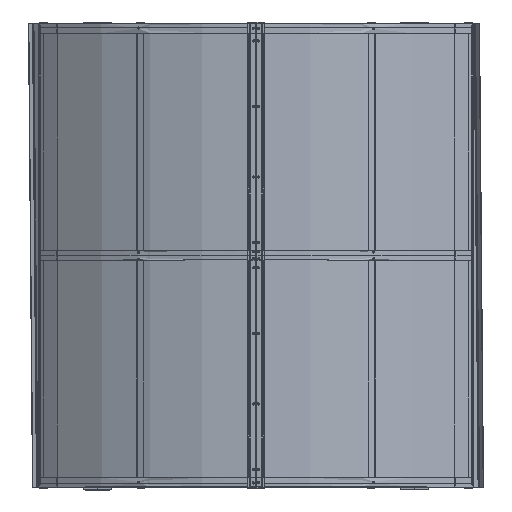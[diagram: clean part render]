
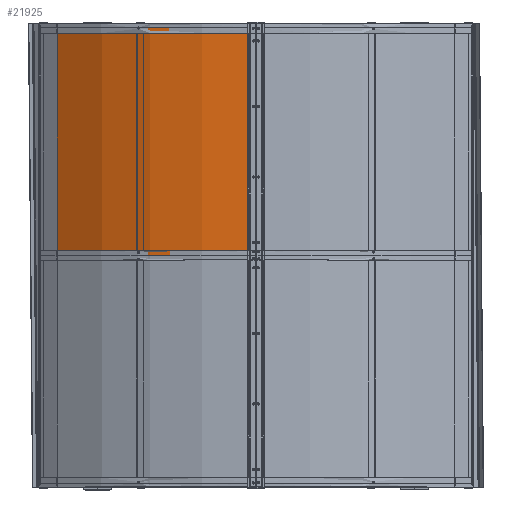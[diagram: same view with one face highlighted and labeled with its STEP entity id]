
A CAD part, top view. The second image highlights one B-rep face of the part: STEP entity #21925.
In plain terms, the highlighted cylindrical face has radius 1693.47 mm (diameter 3386.93 mm), a partial arc.
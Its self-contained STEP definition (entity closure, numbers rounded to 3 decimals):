
#1886=CYLINDRICAL_SURFACE('',#28191,1693.465);
#2512=CIRCLE('',#28190,1693.465);
#2513=CIRCLE('',#28192,1693.465);
#4663=ORIENTED_EDGE('',*,*,#9352,.F.);
#4664=ORIENTED_EDGE('',*,*,#9354,.F.);
#4665=ORIENTED_EDGE('',*,*,#9355,.T.);
#4666=ORIENTED_EDGE('',*,*,#9345,.T.);
#9345=EDGE_CURVE('',#11805,#11803,#13764,.F.);
#9352=EDGE_CURVE('',#11809,#11803,#2512,.T.);
#9354=EDGE_CURVE('',#11810,#11809,#13770,.F.);
#9355=EDGE_CURVE('',#11810,#11805,#2513,.T.);
#11803=VERTEX_POINT('',#39416);
#11805=VERTEX_POINT('',#39419);
#11809=VERTEX_POINT('',#39431);
#11810=VERTEX_POINT('',#39436);
#13764=LINE('',#39418,#15039);
#13770=LINE('',#39435,#15045);
#15039=VECTOR('',#32064,1000.);
#15045=VECTOR('',#32082,1000.);
#16349=EDGE_LOOP('',(#4663,#4664,#4665,#4666));
#18888=FACE_BOUND('',#16349,.T.);
#21925=ADVANCED_FACE('',(#18888),#1886,.T.);
#28190=AXIS2_PLACEMENT_3D('',#39432,#32077,#32078);
#28191=AXIS2_PLACEMENT_3D('',#39434,#32080,#32081);
#28192=AXIS2_PLACEMENT_3D('',#39437,#32083,#32084);
#32064=DIRECTION('',(0.,-1.,0.));
#32077=DIRECTION('',(0.,1.,0.));
#32078=DIRECTION('',(-0.623,0.,0.783));
#32080=DIRECTION('',(0.,1.,0.));
#32081=DIRECTION('',(0.,0.,1.));
#32082=DIRECTION('',(0.,-1.,0.));
#32083=DIRECTION('',(0.,1.,0.));
#32084=DIRECTION('',(-0.623,0.,0.783));
#39416=CARTESIAN_POINT('',(-126.516,617.5,10.));
#39418=CARTESIAN_POINT('',(-126.516,617.5,10.));
#39419=CARTESIAN_POINT('',(-126.516,-617.5,10.));
#39431=CARTESIAN_POINT('',(-1180.723,617.5,-358.146));
#39432=CARTESIAN_POINT('',(-126.516,617.5,-1683.465));
#39434=CARTESIAN_POINT('',(-126.516,0.,-1683.465));
#39435=CARTESIAN_POINT('',(-1180.723,617.5,-358.146));
#39436=CARTESIAN_POINT('',(-1180.723,-617.5,-358.146));
#39437=CARTESIAN_POINT('',(-126.516,-617.5,-1683.465));
